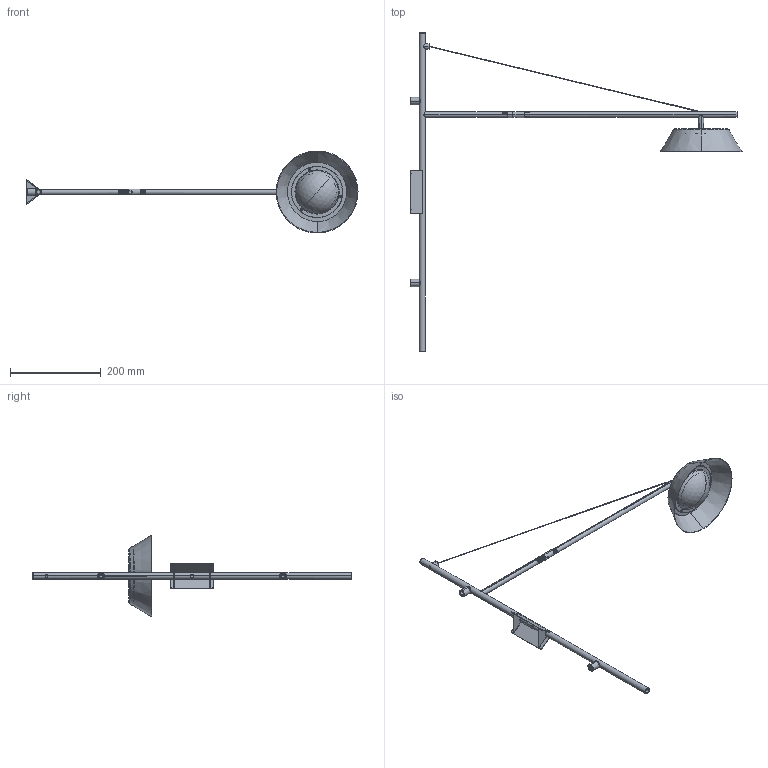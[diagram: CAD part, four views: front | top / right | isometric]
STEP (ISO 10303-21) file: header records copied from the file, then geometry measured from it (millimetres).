
FILE_DESCRIPTION (( 'STEP AP203' ), '1' );
FILE_NAME ('Aplique brazo MEDIANO Ø14 base (con pantalla CONO).STEP', '2025-02-10T13:58:15', ( '' ), ( '' ), 'SwSTEP 2.0', 'SolidWorks 2021', '' );
FILE_SCHEMA (( 'CONFIG_CONTROL_DESIGN' ));
Length unit declared in the file: millimetre
Products named in the file (1): Aplique brazo MEDIANO Ø14 base (con pantalla CONO)
Bounding box: 730 x 700 x 180 mm (x, y, z)
Volume: 196835.5 mm3; surface area: 273538.8 mm2
Topology: 11 solids, 11 shells, 434 faces, 1151 edges, 742 vertices
Faces by surface type: cylinder 265, plane 81, bspline 50, torus 24, cone 10, sphere 4
Entity records: 37162 total; most frequent: CARTESIAN_POINT 27398, ORIENTED_EDGE 2302, DIRECTION 1750, EDGE_CURVE 1151, VERTEX_POINT 742, AXIS2_PLACEMENT_3D 681, EDGE_LOOP 501, FACE_OUTER_BOUND 434
